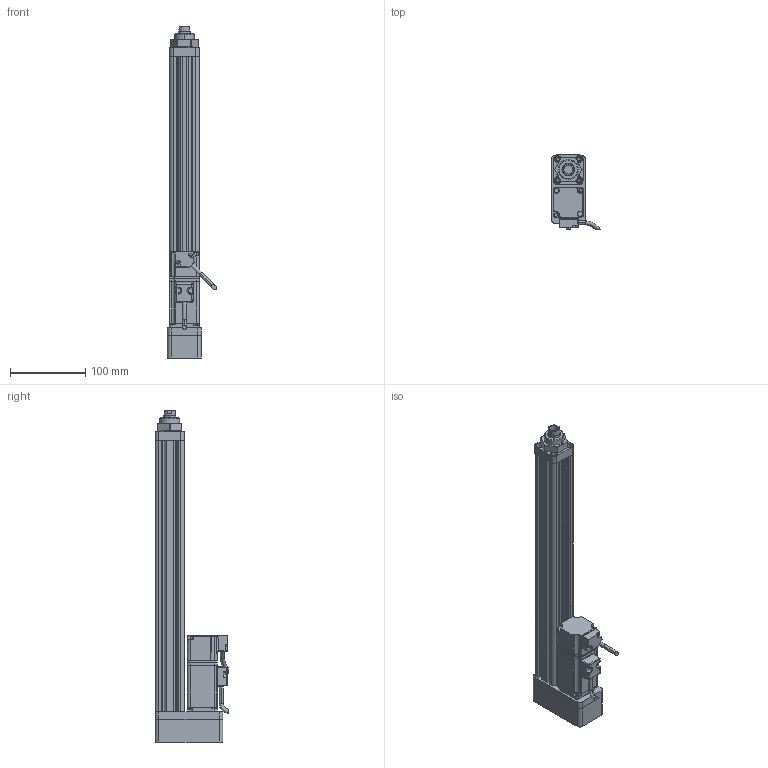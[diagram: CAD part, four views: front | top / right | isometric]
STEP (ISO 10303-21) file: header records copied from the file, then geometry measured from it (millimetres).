
FILE_DESCRIPTION (( 'STEP AP214' ), '1' );
FILE_NAME ('039-S300-D02-B-M4-C2-2.STEP', '2021-02-25T08:58:55', ( '' ), ( '' ), 'SwSTEP 2.0', 'SolidWorks 2018', '' );
FILE_SCHEMA (( 'AUTOMOTIVE_DESIGN' ));
Length unit declared in the file: millimetre
Products named in the file (8): CMC039-GT; ECMA-CX0401ES-40框號系列機種-100W低慣量系列; CMC039-DT; CMC039-LJB; CMC039-FL; 039-S300-D02-B-M4-C2-2; CMC039-HXT; CMC039-M261
Assembly tree (7 placements, depth 2):
  039-S300-D02-B-M4-C2-2
    CMC039-GT
    CMC039-LJB
    CMC039-FL
    CMC039-DT
    ECMA-CX0401ES-40框號系列機種-100W低慣量系列
    CMC039-M261
    CMC039-HXT
Bounding box: 65.33 x 97.89 x 440 mm (x, y, z)
Volume: 573671.2 mm3; surface area: 196651.9 mm2
Topology: 7 solids, 15 shells, 697 faces, 1812 edges, 1126 vertices
Faces by surface type: cylinder 287, plane 269, bspline 84, cone 57
Entity records: 27531 total; most frequent: CARTESIAN_POINT 11127, ORIENTED_EDGE 3558, DIRECTION 2940, EDGE_CURVE 1779, VERTEX_POINT 1126, AXIS2_PLACEMENT_3D 1026, VECTOR 888, LINE 888
